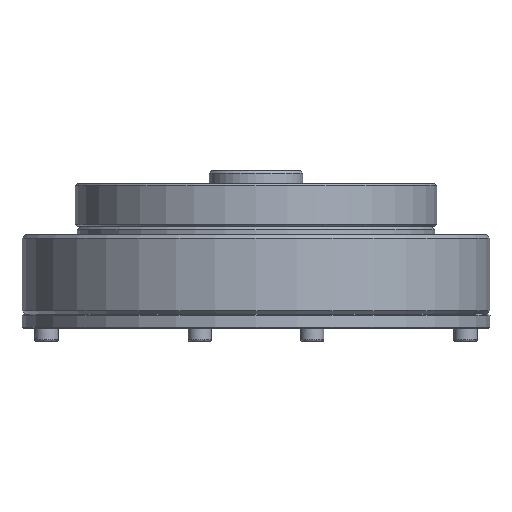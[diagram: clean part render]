
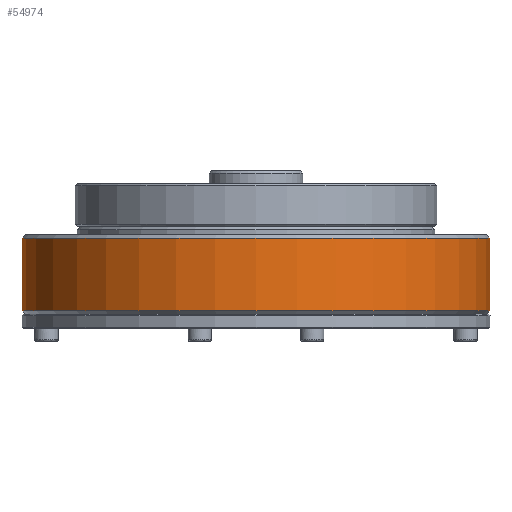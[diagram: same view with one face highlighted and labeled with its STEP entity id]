
A CAD part, front view. The second image highlights one B-rep face of the part: STEP entity #54974.
In plain terms, the highlighted cylindrical face has radius 55 mm (diameter 110 mm), a partial arc.
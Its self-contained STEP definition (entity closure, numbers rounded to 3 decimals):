
#989 = DIRECTION ( 'NONE',  ( -1., 0., 0. ) ) ;
#4227 = CARTESIAN_POINT ( 'NONE',  ( 55., 0., -10.35 ) ) ;
#4286 = EDGE_CURVE ( 'NONE', #59719, #53760, #33318, .T. ) ;
#5137 = EDGE_CURVE ( 'NONE', #60072, #52651, #32434, .T. ) ;
#6686 = AXIS2_PLACEMENT_3D ( 'NONE', #30852, #44628, #36734 ) ;
#8187 = CARTESIAN_POINT ( 'NONE',  ( -55., 0., -9.55 ) ) ;
#11903 = ORIENTED_EDGE ( 'NONE', *, *, #5137, .T. ) ;
#16329 = FACE_OUTER_BOUND ( 'NONE', #61331, .T. ) ;
#18859 = ORIENTED_EDGE ( 'NONE', *, *, #4286, .T. ) ;
#19196 = LINE ( 'NONE', #4227, #32038 ) ;
#19419 = DIRECTION ( 'NONE',  ( 0., 0., -1. ) ) ;
#22198 = AXIS2_PLACEMENT_3D ( 'NONE', #35005, #49575, #989 ) ;
#22676 = LINE ( 'NONE', #48871, #34003 ) ;
#29690 = DIRECTION ( 'NONE',  ( 0., 0., -1. ) ) ;
#30852 = CARTESIAN_POINT ( 'NONE',  ( 0., 0., 7.55 ) ) ;
#32038 = VECTOR ( 'NONE', #19419, 1000. ) ;
#32434 = CIRCLE ( 'NONE', #56076, 55. ) ;
#32670 = ORIENTED_EDGE ( 'NONE', *, *, #44193, .T. ) ;
#33318 = CIRCLE ( 'NONE', #6686, 55. ) ;
#34003 = VECTOR ( 'NONE', #29690, 1000. ) ;
#34330 = CARTESIAN_POINT ( 'NONE',  ( 55., 0., 7.55 ) ) ;
#35005 = CARTESIAN_POINT ( 'NONE',  ( 0., 0., -10.35 ) ) ;
#35252 = CARTESIAN_POINT ( 'NONE',  ( 0., 0., -9.55 ) ) ;
#36153 = CARTESIAN_POINT ( 'NONE',  ( -55., 0., 7.55 ) ) ;
#36734 = DIRECTION ( 'NONE',  ( -1., 0., 0. ) ) ;
#40290 = EDGE_CURVE ( 'NONE', #59719, #52651, #19196, .T. ) ;
#44193 = EDGE_CURVE ( 'NONE', #53760, #60072, #22676, .T. ) ;
#44628 = DIRECTION ( 'NONE',  ( 0., 0., -1. ) ) ;
#48871 = CARTESIAN_POINT ( 'NONE',  ( -55., 0., -10.35 ) ) ;
#49575 = DIRECTION ( 'NONE',  ( 0., 0., -1. ) ) ;
#52008 = ORIENTED_EDGE ( 'NONE', *, *, #40290, .F. ) ;
#52490 = DIRECTION ( 'NONE',  ( -1., 0., 0. ) ) ;
#52651 = VERTEX_POINT ( 'NONE', #60841 ) ;
#53243 = CYLINDRICAL_SURFACE ( 'NONE', #22198, 55. ) ;
#53547 = DIRECTION ( 'NONE',  ( 0., 0., 1. ) ) ;
#53760 = VERTEX_POINT ( 'NONE', #36153 ) ;
#54974 = ADVANCED_FACE ( 'n?2', ( #16329 ), #53243, .T. ) ;
#56076 = AXIS2_PLACEMENT_3D ( 'NONE', #35252, #53547, #52490 ) ;
#59719 = VERTEX_POINT ( 'NONE', #34330 ) ;
#60072 = VERTEX_POINT ( 'NONE', #8187 ) ;
#60841 = CARTESIAN_POINT ( 'NONE',  ( 55., 0., -9.55 ) ) ;
#61331 = EDGE_LOOP ( 'NONE', ( #52008, #18859, #32670, #11903 ) ) ;
